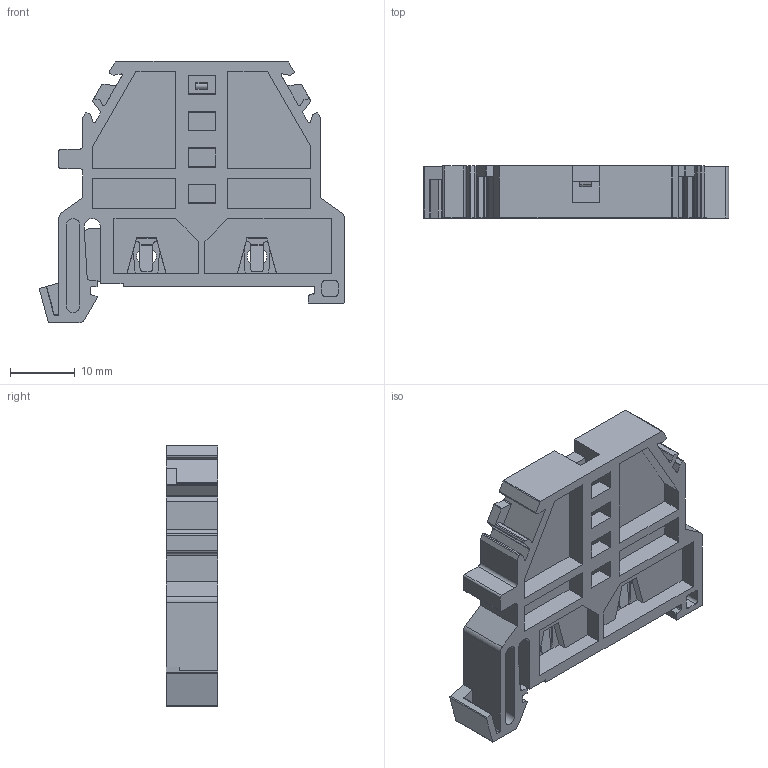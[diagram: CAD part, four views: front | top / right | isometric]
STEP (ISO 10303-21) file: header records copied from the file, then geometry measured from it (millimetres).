
FILE_DESCRIPTION(/* description */ ('Unknown'),/* implementation_level */ '2;1');
FILE_NAME(/* name */ 'RSA L35-B',/* time_stamp */ '2021-05-13T13:26:01+02:00',/* author */ ('Unknown'),/* organization */ ('Unknown'),/* preprocessor_version */ 'ST-DEVELOPER v16.7',/* originating_system */ 'Solid Edge',/* authorisation */ 'Unknown');
FILE_SCHEMA (('AUTOMOTIVE_DESIGN {1 0 10303 214 3 1 1}'));
Length unit declared in the file: millimetre
Products named in the file (1): RSA L35-B.stp
Bounding box: 46.98 x 8 x 40.2 mm (x, y, z)
Volume: 5833.9 mm3; surface area: 7391.2 mm2
Topology: 1 solids, 1 shells, 392 faces, 1107 edges, 728 vertices
Faces by surface type: plane 277, cylinder 109, cone 6
Full cylindrical faces by diameter (mm): 3 x2
Entity records: 12656 total; most frequent: CARTESIAN_POINT 2222, ORIENTED_EDGE 2206, DIRECTION 2120, EDGE_CURVE 1103, LINE 872, VECTOR 872, VERTEX_POINT 726, AXIS2_PLACEMENT_3D 624
